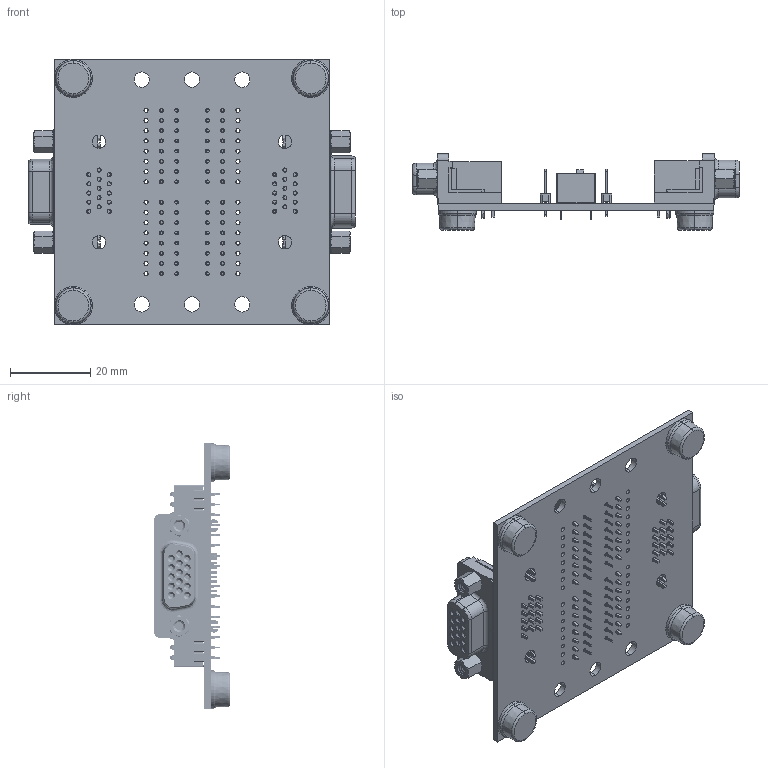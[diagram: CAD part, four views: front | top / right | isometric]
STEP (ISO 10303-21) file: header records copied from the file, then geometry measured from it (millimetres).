
FILE_DESCRIPTION (( 'STEP AP214' ), '1' );
FILE_NAME ('btsd15hd-r-ft_rev_a.step', '2021-11-24T16:30:05', ( '' ), ( '' ), 'SwSTEP 2.0', 'SolidWorks 2018', '' );
FILE_SCHEMA (( 'AUTOMOTIVE_DESIGN' ));
Length unit declared in the file: inch
Products named in the file (7): DIP Switch 8 pin; Male Right Angle 15 Pin HD; RubberFoot_round; single row header- 8 position; Female Right Angle 15 Pin HD; BTSD15HD_PCB; btsd15hd-r-ft_rev_a
Assembly tree (13 placements, depth 2):
  btsd15hd-r-ft_rev_a
    BTSD15HD_PCB
    Female Right Angle 15 Pin HD
    Male Right Angle 15 Pin HD
    DIP Switch 8 pin  x2
    single row header- 8 position  x4
    RubberFoot_round  x4
Bounding box: 81.09 x 18.9 x 66.04 mm (x, y, z)
Volume: 19734.1 mm3; surface area: 25756.5 mm2
Topology: 103 solids, 103 shells, 6530 faces, 17000 edges, 11046 vertices
Faces by surface type: plane 4530, bspline 1023, cylinder 843, cone 114, torus 20
Entity records: 245518 total; most frequent: CARTESIAN_POINT 79908, ORIENTED_EDGE 23900, DIRECTION 18401, EDGE_CURVE 11950, LINE 8539, VECTOR 8539, VERTEX_POINT 7842, EDGE_LOOP 5140
